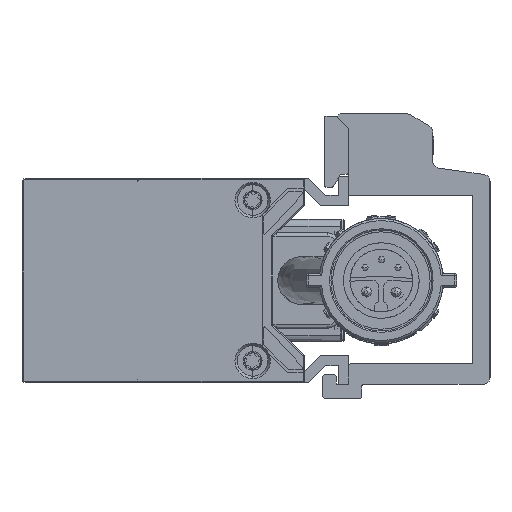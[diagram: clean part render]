
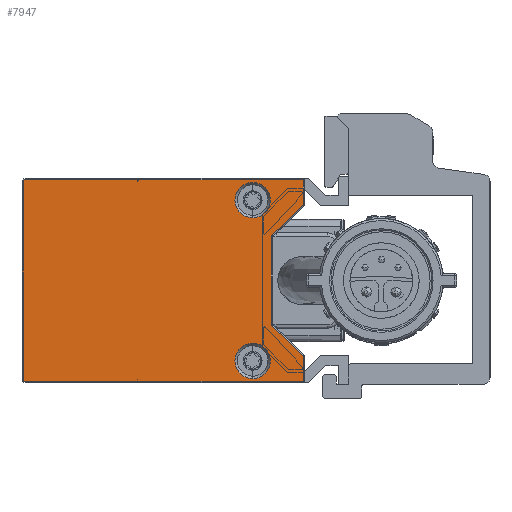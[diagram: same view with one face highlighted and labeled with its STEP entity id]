
A CAD part, left-side view. The second image highlights one B-rep face of the part: STEP entity #7947.
In plain terms, the highlighted planar face has unit normal (-1, 0, 0).
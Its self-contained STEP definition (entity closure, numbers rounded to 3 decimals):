
#623 = DIRECTION ( 'NONE',  ( 0., 1., 0. ) ) ;
#1523 = VERTEX_POINT ( 'NONE', #26313 ) ;
#1681 = ORIENTED_EDGE ( 'NONE', *, *, #39588, .T. ) ;
#1865 = DIRECTION ( 'NONE',  ( -1., 0., 0. ) ) ;
#2838 = ORIENTED_EDGE ( 'NONE', *, *, #31299, .F. ) ;
#3169 = CARTESIAN_POINT ( 'NONE',  ( -750., 14.134, -9.2 ) ) ;
#3183 = ORIENTED_EDGE ( 'NONE', *, *, #56066, .F. ) ;
#3276 = LINE ( 'NONE', #48835, #33393 ) ;
#4156 = VERTEX_POINT ( 'NONE', #3169 ) ;
#4648 = ORIENTED_EDGE ( 'NONE', *, *, #52103, .F. ) ;
#5395 = CARTESIAN_POINT ( 'NONE',  ( -750., 6.7, -14.8 ) ) ;
#7175 = VECTOR ( 'NONE', #26661, 1000. ) ;
#7947 = ADVANCED_FACE ( 'NONE', ( #30208, #25251, #41505 ), #56969, .T. ) ;
#8026 = LINE ( 'NONE', #12979, #33453 ) ;
#8351 = LINE ( 'NONE', #18538, #43016 ) ;
#8530 = ORIENTED_EDGE ( 'NONE', *, *, #20438, .T. ) ;
#9385 = CARTESIAN_POINT ( 'NONE',  ( -750., 14.134, 9.2 ) ) ;
#9454 = VECTOR ( 'NONE', #17763, 1000. ) ;
#9749 = CIRCLE ( 'NONE', #16081, 2.6 ) ;
#11067 = VECTOR ( 'NONE', #43070, 1000. ) ;
#11926 = ORIENTED_EDGE ( 'NONE', *, *, #17488, .T. ) ;
#11935 = CARTESIAN_POINT ( 'NONE',  ( -750., 47.8, -14.5 ) ) ;
#12529 = DIRECTION ( 'NONE',  ( 0., 0., 1. ) ) ;
#12865 = EDGE_LOOP ( 'NONE', ( #1681, #11926, #4648, #46492, #38173, #63415, #52037, #2838, #40082, #8530, #26222, #33261 ) ) ;
#12979 = CARTESIAN_POINT ( 'NONE',  ( -750., 6.7, 14.8 ) ) ;
#14180 = CARTESIAN_POINT ( 'NONE',  ( -750., 14.134, 11.8 ) ) ;
#14554 = CARTESIAN_POINT ( 'NONE',  ( -750., 47.8, 14.5 ) ) ;
#16081 = AXIS2_PLACEMENT_3D ( 'NONE', #62573, #22300, #36905 ) ;
#16996 = CARTESIAN_POINT ( 'NONE',  ( -750., 47.5, 14.8 ) ) ;
#17488 = EDGE_CURVE ( 'NONE', #1523, #63586, #8026, .T. ) ;
#17763 = DIRECTION ( 'NONE',  ( 0., 0., 1. ) ) ;
#18538 = CARTESIAN_POINT ( 'NONE',  ( -750., 11.278, -6.703 ) ) ;
#18786 = CARTESIAN_POINT ( 'NONE',  ( -750., 11.399, 6.415 ) ) ;
#19490 = DIRECTION ( 'NONE',  ( 0., 0., -1. ) ) ;
#20037 = DIRECTION ( 'NONE',  ( 0., 1., 0. ) ) ;
#20076 = CIRCLE ( 'NONE', #29530, 0.4 ) ;
#20242 = VECTOR ( 'NONE', #45984, 1000. ) ;
#20438 = EDGE_CURVE ( 'NONE', #51180, #32295, #62275, .T. ) ;
#21684 = CARTESIAN_POINT ( 'NONE',  ( -750., 11.399, -6.415 ) ) ;
#22300 = DIRECTION ( 'NONE',  ( -1., 0., 0. ) ) ;
#22851 = CARTESIAN_POINT ( 'NONE',  ( -750., 6.7, 11.135 ) ) ;
#23339 = CARTESIAN_POINT ( 'NONE',  ( -750., 6.7, 11.135 ) ) ;
#25032 = AXIS2_PLACEMENT_3D ( 'NONE', #14180, #30639, #50518 ) ;
#25033 = EDGE_CURVE ( 'NONE', #42740, #51376, #50944, .T. ) ;
#25074 = CIRCLE ( 'NONE', #61987, 2.6 ) ;
#25251 = FACE_BOUND ( 'NONE', #48562, .T. ) ;
#26222 = ORIENTED_EDGE ( 'NONE', *, *, #46658, .F. ) ;
#26313 = CARTESIAN_POINT ( 'NONE',  ( -750., 6.7, 14.8 ) ) ;
#26498 = CIRCLE ( 'NONE', #58121, 0.3 ) ;
#26661 = DIRECTION ( 'NONE',  ( 0., 0., 1. ) ) ;
#26745 = DIRECTION ( 'NONE',  ( -1., 0., 0. ) ) ;
#26791 = EDGE_CURVE ( 'NONE', #61767, #4156, #9749, .T. ) ;
#26946 = VERTEX_POINT ( 'NONE', #61473 ) ;
#27173 = LINE ( 'NONE', #22851, #11067 ) ;
#27650 = CARTESIAN_POINT ( 'NONE',  ( -750., 6.7, -14.8 ) ) ;
#27847 = CARTESIAN_POINT ( 'NONE',  ( -750., 47.8, 14.5 ) ) ;
#27929 = CIRCLE ( 'NONE', #52268, 0.4 ) ;
#29503 = CARTESIAN_POINT ( 'NONE',  ( -750., 11.399, -6.415 ) ) ;
#29530 = AXIS2_PLACEMENT_3D ( 'NONE', #32824, #42781, #623 ) ;
#30208 = FACE_BOUND ( 'NONE', #45782, .T. ) ;
#30639 = DIRECTION ( 'NONE',  ( -1., 0., 0. ) ) ;
#31299 = EDGE_CURVE ( 'NONE', #56437, #33135, #8351, .T. ) ;
#32238 = VERTEX_POINT ( 'NONE', #11935 ) ;
#32295 = VERTEX_POINT ( 'NONE', #18786 ) ;
#32824 = CARTESIAN_POINT ( 'NONE',  ( -750., 10.999, -6.415 ) ) ;
#33135 = VERTEX_POINT ( 'NONE', #51312 ) ;
#33261 = ORIENTED_EDGE ( 'NONE', *, *, #55983, .F. ) ;
#33393 = VECTOR ( 'NONE', #12529, 1000. ) ;
#33453 = VECTOR ( 'NONE', #54452, 1000. ) ;
#33931 = LINE ( 'NONE', #27650, #9454 ) ;
#34253 = VERTEX_POINT ( 'NONE', #9385 ) ;
#34317 = AXIS2_PLACEMENT_3D ( 'NONE', #62193, #1865, #46434 ) ;
#34828 = DIRECTION ( 'NONE',  ( 0., 0.696, 0.718 ) ) ;
#35709 = DIRECTION ( 'NONE',  ( 0., 0., 1. ) ) ;
#36196 = CIRCLE ( 'NONE', #39337, 0.3 ) ;
#36372 = AXIS2_PLACEMENT_3D ( 'NONE', #58200, #37783, #57886 ) ;
#36905 = DIRECTION ( 'NONE',  ( 0., 0., -1. ) ) ;
#37067 = DIRECTION ( 'NONE',  ( -1., 0., 0. ) ) ;
#37783 = DIRECTION ( 'NONE',  ( -1., 0., 0. ) ) ;
#38173 = ORIENTED_EDGE ( 'NONE', *, *, #53356, .F. ) ;
#38716 = DIRECTION ( 'NONE',  ( 0., -0.718, -0.696 ) ) ;
#39337 = AXIS2_PLACEMENT_3D ( 'NONE', #46734, #61847, #56922 ) ;
#39537 = VERTEX_POINT ( 'NONE', #23339 ) ;
#39588 = EDGE_CURVE ( 'NONE', #39537, #1523, #3276, .T. ) ;
#39992 = LINE ( 'NONE', #14554, #60222 ) ;
#40082 = ORIENTED_EDGE ( 'NONE', *, *, #63633, .F. ) ;
#41505 = FACE_OUTER_BOUND ( 'NONE', #12865, .T. ) ;
#41947 = CIRCLE ( 'NONE', #25032, 2.6 ) ;
#42740 = VERTEX_POINT ( 'NONE', #56314 ) ;
#42781 = DIRECTION ( 'NONE',  ( -1., 0., 0. ) ) ;
#43016 = VECTOR ( 'NONE', #38716, 1000. ) ;
#43070 = DIRECTION ( 'NONE',  ( 0., 0.718, -0.696 ) ) ;
#44186 = ORIENTED_EDGE ( 'NONE', *, *, #26791, .F. ) ;
#45782 = EDGE_LOOP ( 'NONE', ( #52944, #44186 ) ) ;
#45984 = DIRECTION ( 'NONE',  ( 0., -1., 0. ) ) ;
#46434 = DIRECTION ( 'NONE',  ( 0., 0., 1. ) ) ;
#46492 = ORIENTED_EDGE ( 'NONE', *, *, #64129, .T. ) ;
#46658 = EDGE_CURVE ( 'NONE', #26946, #32295, #27929, .T. ) ;
#46734 = CARTESIAN_POINT ( 'NONE',  ( -750., 47.5, -14.5 ) ) ;
#47727 = DIRECTION ( 'NONE',  ( 1., 0., 0. ) ) ;
#48359 = EDGE_CURVE ( 'NONE', #53920, #34253, #41947, .T. ) ;
#48562 = EDGE_LOOP ( 'NONE', ( #59806, #3183 ) ) ;
#48835 = CARTESIAN_POINT ( 'NONE',  ( -750., 6.7, 11.135 ) ) ;
#49258 = EDGE_CURVE ( 'NONE', #51376, #33135, #33931, .T. ) ;
#50518 = DIRECTION ( 'NONE',  ( 0., 0., 1. ) ) ;
#50944 = LINE ( 'NONE', #51267, #20242 ) ;
#51011 = CARTESIAN_POINT ( 'NONE',  ( -750., 14.134, -14.4 ) ) ;
#51180 = VERTEX_POINT ( 'NONE', #29503 ) ;
#51267 = CARTESIAN_POINT ( 'NONE',  ( -750., 47.5, -14.8 ) ) ;
#51312 = CARTESIAN_POINT ( 'NONE',  ( -750., 6.7, -11.135 ) ) ;
#51376 = VERTEX_POINT ( 'NONE', #5395 ) ;
#51943 = CARTESIAN_POINT ( 'NONE',  ( -750., 10.999, 6.415 ) ) ;
#52037 = ORIENTED_EDGE ( 'NONE', *, *, #49258, .T. ) ;
#52103 = EDGE_CURVE ( 'NONE', #57374, #63586, #26498, .T. ) ;
#52268 = AXIS2_PLACEMENT_3D ( 'NONE', #51943, #37067, #34828 ) ;
#52570 = CARTESIAN_POINT ( 'NONE',  ( -750., 11.278, -6.703 ) ) ;
#52944 = ORIENTED_EDGE ( 'NONE', *, *, #61048, .F. ) ;
#53289 = CARTESIAN_POINT ( 'NONE',  ( -750., 14.134, 14.4 ) ) ;
#53356 = EDGE_CURVE ( 'NONE', #42740, #32238, #36196, .T. ) ;
#53920 = VERTEX_POINT ( 'NONE', #53289 ) ;
#54452 = DIRECTION ( 'NONE',  ( 0., 1., 0. ) ) ;
#55983 = EDGE_CURVE ( 'NONE', #39537, #26946, #27173, .T. ) ;
#56066 = EDGE_CURVE ( 'NONE', #34253, #53920, #64738, .T. ) ;
#56314 = CARTESIAN_POINT ( 'NONE',  ( -750., 47.5, -14.8 ) ) ;
#56437 = VERTEX_POINT ( 'NONE', #52570 ) ;
#56506 = CARTESIAN_POINT ( 'NONE',  ( -750., 14.134, -11.8 ) ) ;
#56922 = DIRECTION ( 'NONE',  ( 0., 0., -1. ) ) ;
#56969 = PLANE ( 'NONE',  #34317 ) ;
#57374 = VERTEX_POINT ( 'NONE', #27847 ) ;
#57886 = DIRECTION ( 'NONE',  ( 0., 0., -1. ) ) ;
#58121 = AXIS2_PLACEMENT_3D ( 'NONE', #60656, #47727, #20037 ) ;
#58200 = CARTESIAN_POINT ( 'NONE',  ( -750., 14.134, 11.8 ) ) ;
#59806 = ORIENTED_EDGE ( 'NONE', *, *, #48359, .F. ) ;
#60222 = VECTOR ( 'NONE', #19490, 1000. ) ;
#60656 = CARTESIAN_POINT ( 'NONE',  ( -750., 47.5, 14.5 ) ) ;
#61048 = EDGE_CURVE ( 'NONE', #4156, #61767, #25074, .T. ) ;
#61473 = CARTESIAN_POINT ( 'NONE',  ( -750., 11.278, 6.703 ) ) ;
#61767 = VERTEX_POINT ( 'NONE', #51011 ) ;
#61847 = DIRECTION ( 'NONE',  ( 1., 0., 0. ) ) ;
#61987 = AXIS2_PLACEMENT_3D ( 'NONE', #56506, #26745, #35709 ) ;
#62193 = CARTESIAN_POINT ( 'NONE',  ( -750., 11.199, 0. ) ) ;
#62275 = LINE ( 'NONE', #21684, #7175 ) ;
#62573 = CARTESIAN_POINT ( 'NONE',  ( -750., 14.134, -11.8 ) ) ;
#63415 = ORIENTED_EDGE ( 'NONE', *, *, #25033, .T. ) ;
#63586 = VERTEX_POINT ( 'NONE', #16996 ) ;
#63633 = EDGE_CURVE ( 'NONE', #51180, #56437, #20076, .T. ) ;
#64129 = EDGE_CURVE ( 'NONE', #57374, #32238, #39992, .T. ) ;
#64738 = CIRCLE ( 'NONE', #36372, 2.6 ) ;
